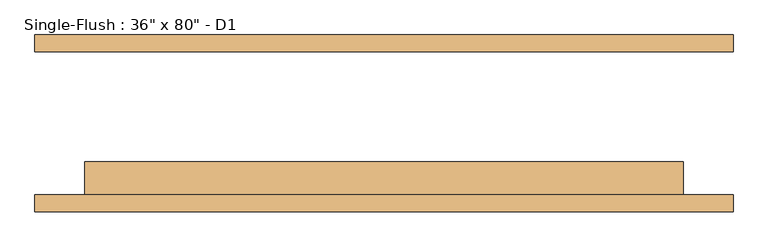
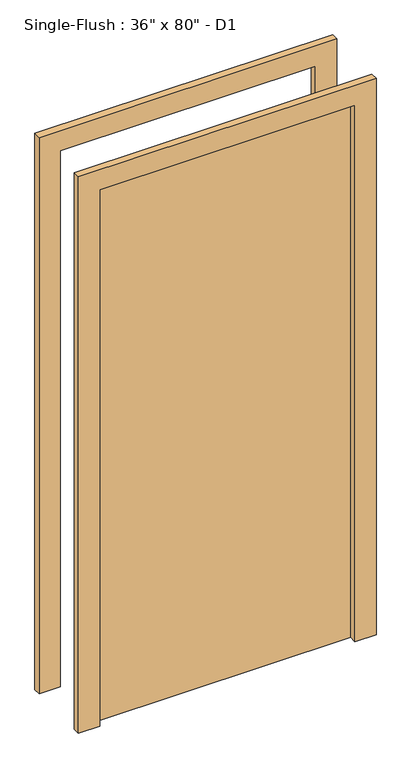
"""IFC4 building model written with IfcOpenShell, lengths in millimetres: door geometry."""

from ifc_helpers import new_model, si_unit, frame, origin, origin_with_axes, place, context, project, spatial, polyline, outline, extrude, source, transform, mapped, element, save


def door_55521cee(model_context):
    return source(origin(), model_context, "Body", "SweptSolid", [
        extrude(outline(polyline([(2108.2, -533.4), (0.0, -533.4), (0.0, -457.2), (2032.0, -457.2), (2032.0, 457.2), (0.0, 457.2), (0.0, 533.4), (2108.2, 533.4), (2108.2, -533.4)])), frame((0.0, -134.9375, 0.0), z_axis=(0.0, 1.0, 0.0), x_axis=(0.0, 0.0, 1.0)), (0.0, 0.0, 1.0), 25.4),
        extrude(outline(polyline([(2108.2, 533.4), (2108.2, -533.4), (0.0, -533.4), (0.0, -457.2), (2032.0, -457.2), (2032.0, 457.2), (0.0, 457.2), (0.0, 533.4), (2108.2, 533.4)])), frame((0.0, 109.5375, 0.0), z_axis=(0.0, 1.0, 0.0), x_axis=(0.0, 0.0, 1.0)), (0.0, 0.0, 1.0), 25.4),
        extrude(outline(polyline([(457.2, -58.7375), (457.2, -109.5375), (-457.2, -109.5375), (-457.2, -58.7375), (457.2, -58.7375)])), origin_with_axes(), (0.0, 0.0, 1.0), 2032.0),
    ])


if __name__ == "__main__":
    model = new_model("IFC4")
    model_context = context("Model", 3, world=origin())
    ifc_project = project(units=[si_unit("LENGTHUNIT", "METRE", prefix="MILLI")], contexts=[model_context])
    site = spatial("IfcSite", under=ifc_project)
    building = spatial("IfcBuilding", under=site)
    placement = place(None, origin())
    door_shape = door_55521cee(model_context)
    element("IfcDoor", 1, ObjectType="Single-Flush : 36\" x 80\" - D1", at=placement, inside=building, context=model_context, shape_type="MappedRepresentation", body=[
        mapped(door_shape, transform((0.0, 0.0, 0.0), x_axis=(1.0, 0.0, 0.0), y_axis=(0.0, 1.0, 0.0), z_axis=(0.0, 0.0, 1.0))),
    ])
    save(model, "model.ifc")
